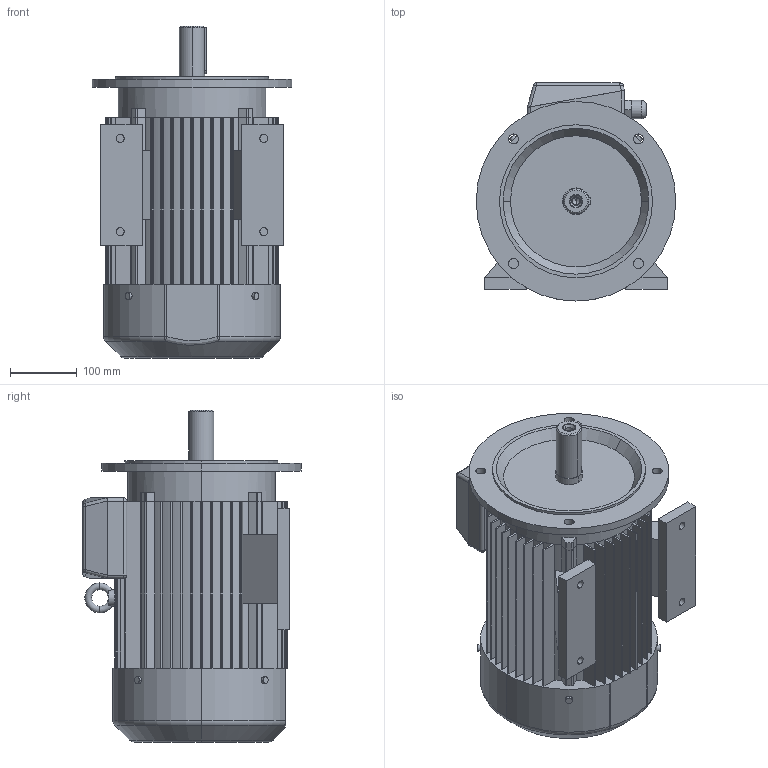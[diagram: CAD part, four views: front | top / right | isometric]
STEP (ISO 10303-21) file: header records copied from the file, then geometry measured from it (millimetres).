
FILE_DESCRIPTION (( 'STEP AP203' ), '1' );
FILE_NAME ('2SIEL132S2B,4.STEP', '2012-10-29T07:59:55', ( 'INDUKTA' ), ( 'CANTONI MOTOR' ), 'SwSTEP 2.0', 'SolidWorks 2003064', '' );
FILE_SCHEMA (( 'CONFIG_CONTROL_DESIGN' ));
Length unit declared in the file: millimetre
Products named in the file (1): 2SIEL132S2B,4
Bounding box: 300 x 328 x 499 mm (x, y, z)
Volume: 20618147.2 mm3; surface area: 1162356.9 mm2
Topology: 14 solids, 14 shells, 417 faces, 1104 edges, 702 vertices
Faces by surface type: cylinder 191, plane 188, cone 14, torus 13, sphere 10, bspline 1
Entity records: 13729 total; most frequent: CARTESIAN_POINT 3078, DIRECTION 2309, ORIENTED_EDGE 2184, EDGE_CURVE 1092, AXIS2_PLACEMENT_3D 837, VERTEX_POINT 702, LINE 635, VECTOR 635
